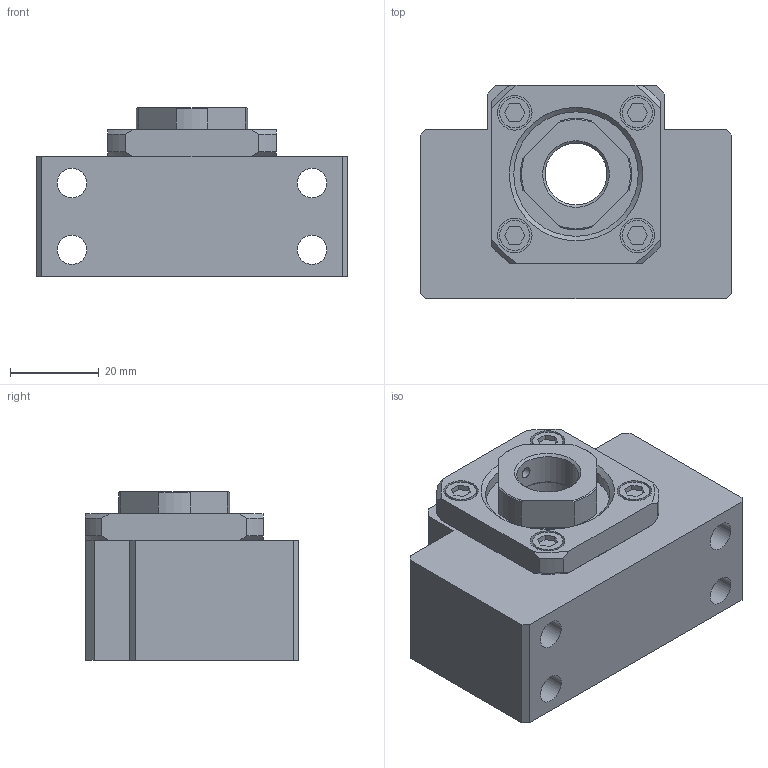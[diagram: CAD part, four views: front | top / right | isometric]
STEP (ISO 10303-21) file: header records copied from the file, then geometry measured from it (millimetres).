
FILE_DESCRIPTION(/* description */ ('STEP AP214'),/* implementation_level */ '2;1');
FILE_NAME(/* name */ 'BK15______CAD_NO_Yes',/* time_stamp */ '2026-09-17T12:59:26+02:00',/* author */ ('License CC BY-ND 4.0'),/* organization */ ('CADENAS'),/* preprocessor_version */ 'ST-DEVELOPER v20',/* originating_system */ 'PARTsolutions',/* authorisation */ ' ');
FILE_SCHEMA (('AUTOMOTIVE_DESIGN {1 0 10303 214 3 1 1}'));
Length unit declared in the file: millimetre
Products named in the file (4): BK15______CAD_NO_Yes; BK 15; BK 15collar; RN 15
Assembly tree (4 placements, depth 2):
  BK15______CAD_NO_Yes
    BK 15
    BK 15collar  x2
    RN 15
Bounding box: 70 x 48 x 38 mm (x, y, z)
Volume: 79126.4 mm3; surface area: 26614.2 mm2
Topology: 4 solids, 4 shells, 153 faces, 355 edges, 236 vertices
Faces by surface type: plane 94, cylinder 38, cone 21
Full cylindrical faces by diameter (mm): 2.459 x1, 3 x1, 6.6 x4, 6.8 x4, 7.8 x4, 11 x4, 13.917 x1, 15 x3, 19.5 x4, 21 x1, 28 x2, 28.1 x1
Entity records: 4267 total; most frequent: CARTESIAN_POINT 836, DIRECTION 678, ORIENTED_EDGE 626, EDGE_CURVE 313, AXIS2_PLACEMENT_3D 253, VERTEX_POINT 229, EDGE_LOOP 222, FACE_BOUND 222
